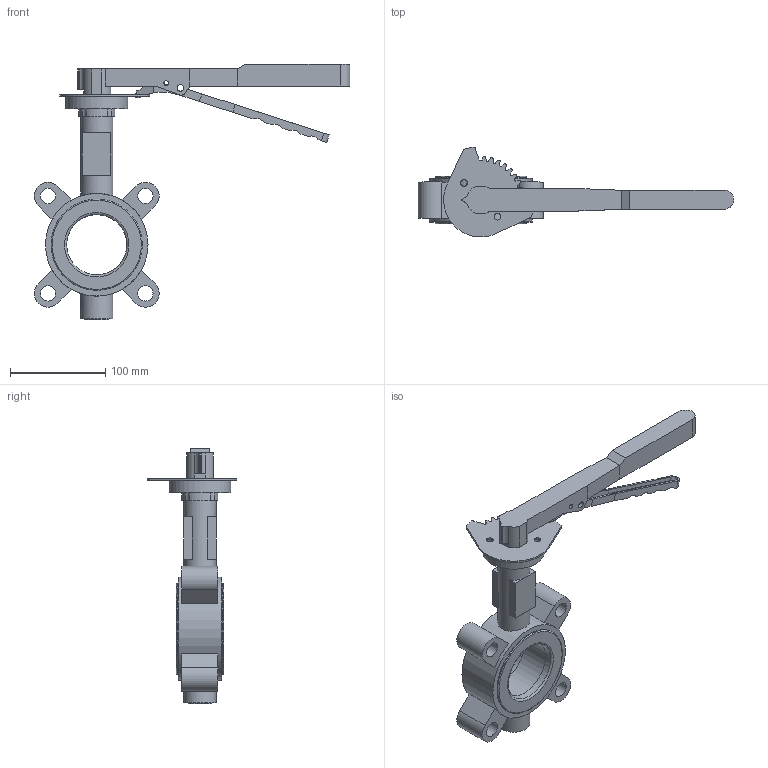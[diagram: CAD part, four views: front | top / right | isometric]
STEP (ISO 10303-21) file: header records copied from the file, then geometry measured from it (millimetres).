
FILE_DESCRIPTION (( 'STEP AP203' ), '1' );
FILE_NAME ('2502 LT型中线衬胶带销 手柄蝶阀 DN65 PN16 CD0309137.STEP', '2026-04-13T01:54:09', ( '' ), ( '' ), 'SwSTEP 2.0', 'SolidWorks 2018', '' );
FILE_SCHEMA (( 'CONFIG_CONTROL_DESIGN' ));
Length unit declared in the file: millimetre
Products named in the file (8): 2502 LT型中线衬胶带销 手柄蝶阀 DN65 PN16 CD0309137; DIN908 塞堵M20×1.5; 新型玛钢手柄装配体-DN50-DN80-立方11-9004; 新型玛钢手柄主手柄(长)-DN50-DN80-立方9-9004; GALA-D65-01LC-00; GALA-D65-04AZC-00; YH-D50-80-06Y-01 DN40-DN80 喘攫; 新型玛钢手柄副手柄(长)-DN50-DN80-9004
Assembly tree (7 placements, depth 3):
  2502 LT型中线衬胶带销 手柄蝶阀 DN65 PN16 CD0309137
    GALA-D65-04AZC-00
    DIN908 塞堵M20×1.5
    GALA-D65-01LC-00
    YH-D50-80-06Y-01 DN40-DN80 喘攫
    新型玛钢手柄装配体-DN50-DN80-立方11-9004
      新型玛钢手柄副手柄(长)-DN50-DN80-9004
      新型玛钢手柄主手柄(长)-DN50-DN80-立方9-9004
Bounding box: 331.88 x 94.53 x 269 mm (x, y, z)
Volume: 636947.1 mm3; surface area: 175294.9 mm2
Topology: 6 solids, 6 shells, 275 faces, 729 edges, 476 vertices
Faces by surface type: plane 134, cylinder 127, torus 8, cone 6
Full cylindrical faces by diameter (mm): 5 x4, 7 x10, 16 x4, 20 x1, 25 x2, 27 x1, 34 x2, 63.267 x1, 65 x1, 72 x2, 96 x4, 108 x1
Entity records: 9407 total; most frequent: CARTESIAN_POINT 1668, DIRECTION 1503, ORIENTED_EDGE 1346, EDGE_CURVE 673, AXIS2_PLACEMENT_3D 558, VERTEX_POINT 469, LINE 387, VECTOR 387
